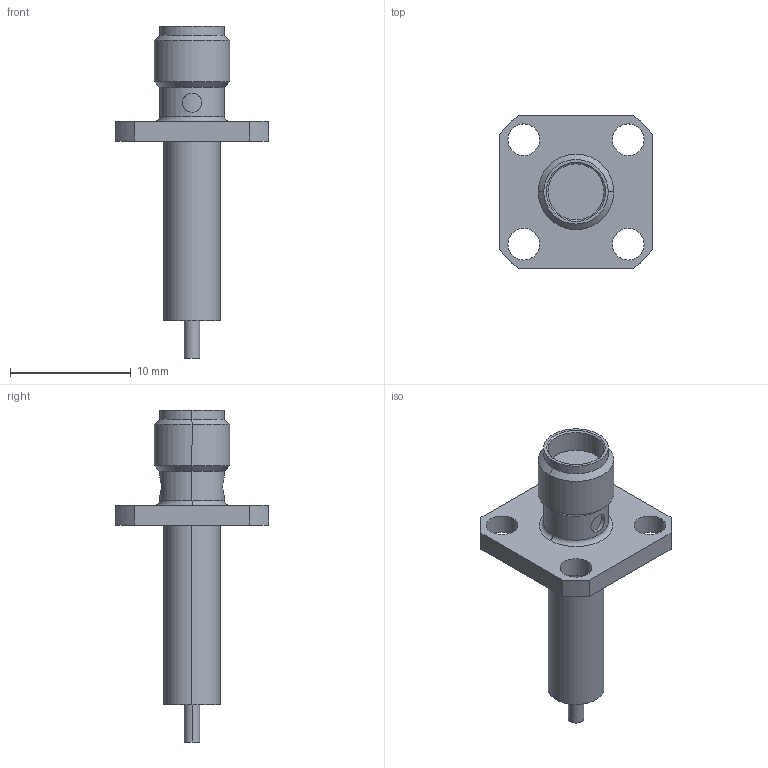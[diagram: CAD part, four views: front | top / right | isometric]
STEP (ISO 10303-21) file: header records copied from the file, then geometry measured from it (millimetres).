
FILE_DESCRIPTION (( 'STEP AP214' ), '1' );
FILE_NAME ('2950-6061.STEP', '2015-09-17T14:04:55', ( '' ), ( '' ), 'SwSTEP 2.0', 'SolidWorks 2015', '' );
FILE_SCHEMA (( 'AUTOMOTIVE_DESIGN' ));
Length unit declared in the file: inch
Products named in the file (1): 2950-6061
Bounding box: 12.7 x 12.7 x 27.46 mm (x, y, z)
Volume: 652.4 mm3; surface area: 809.3 mm2
Topology: 1 solids, 1 shells, 48 faces, 108 edges, 68 vertices
Faces by surface type: cylinder 30, plane 10, cone 6, torus 2
Entity records: 2081 total; most frequent: CARTESIAN_POINT 357, DIRECTION 252, ORIENTED_EDGE 216, EDGE_CURVE 108, AXIS2_PLACEMENT_3D 103, VERTEX_POINT 68, EDGE_LOOP 62, CIRCLE 54
